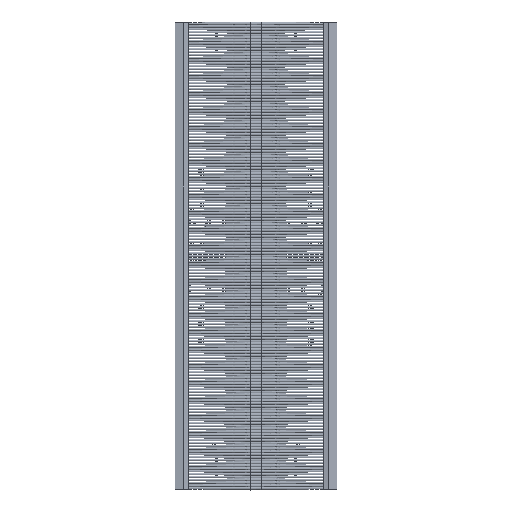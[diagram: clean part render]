
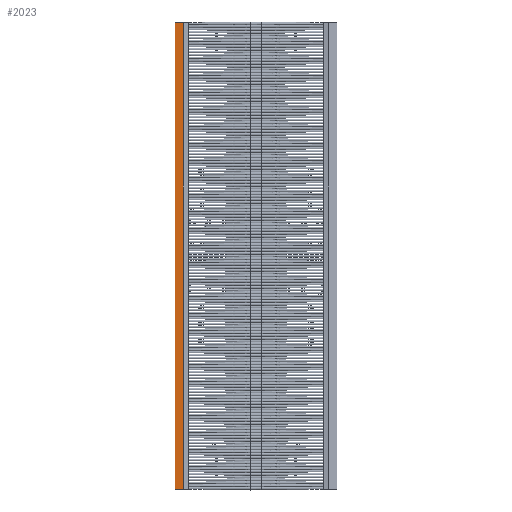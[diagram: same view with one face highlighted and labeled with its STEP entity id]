
A CAD part, front view. The second image highlights one B-rep face of the part: STEP entity #2023.
In plain terms, the highlighted planar face has unit normal (-0.09, -0.996, 0) as drawn and (0, -0.091, 0.996) by its records, which use the part's own axes.
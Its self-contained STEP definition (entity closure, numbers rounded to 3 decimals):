
#1997 = VERTEX_POINT('',#1998);
#1998 = CARTESIAN_POINT('',(-317.,-7.,4.75));
#2004 = EDGE_CURVE('',#2005,#1997,#2007,.T.);
#2005 = VERTEX_POINT('',#2006);
#2006 = CARTESIAN_POINT('',(317.,-7.,4.75));
#2007 = LINE('',#2008,#2009);
#2008 = CARTESIAN_POINT('',(317.,-7.,4.75));
#2009 = VECTOR('',#2010,1.);
#2010 = DIRECTION('',(-1.,-0.,-0.));
#2023 = ADVANCED_FACE('',(#2024),#2049,.F.);
#2024 = FACE_BOUND('',#2025,.T.);
#2025 = EDGE_LOOP('',(#2026,#2034,#2042,#2048));
#2026 = ORIENTED_EDGE('',*,*,#2027,.T.);
#2027 = EDGE_CURVE('',#1997,#2028,#2030,.T.);
#2028 = VERTEX_POINT('',#2029);
#2029 = CARTESIAN_POINT('',(-317.,-18.,3.75));
#2030 = LINE('',#2031,#2032);
#2031 = CARTESIAN_POINT('',(-317.,-7.349,4.718));
#2032 = VECTOR('',#2033,1.);
#2033 = DIRECTION('',(0.,-0.996,-0.091));
#2034 = ORIENTED_EDGE('',*,*,#2035,.F.);
#2035 = EDGE_CURVE('',#2036,#2028,#2038,.T.);
#2036 = VERTEX_POINT('',#2037);
#2037 = CARTESIAN_POINT('',(317.,-18.,3.75));
#2038 = LINE('',#2039,#2040);
#2039 = CARTESIAN_POINT('',(317.,-18.,3.75));
#2040 = VECTOR('',#2041,1.);
#2041 = DIRECTION('',(-1.,-0.,-0.));
#2042 = ORIENTED_EDGE('',*,*,#2043,.F.);
#2043 = EDGE_CURVE('',#2005,#2036,#2044,.T.);
#2044 = LINE('',#2045,#2046);
#2045 = CARTESIAN_POINT('',(317.,-7.349,4.718));
#2046 = VECTOR('',#2047,1.);
#2047 = DIRECTION('',(0.,-0.996,-0.091));
#2048 = ORIENTED_EDGE('',*,*,#2004,.T.);
#2049 = PLANE('',#2050);
#2050 = AXIS2_PLACEMENT_3D('',#2051,#2052,#2053);
#2051 = CARTESIAN_POINT('',(317.,-7.349,4.718));
#2052 = DIRECTION('',(0.,0.091,-0.996));
#2053 = DIRECTION('',(0.,0.996,0.091));
